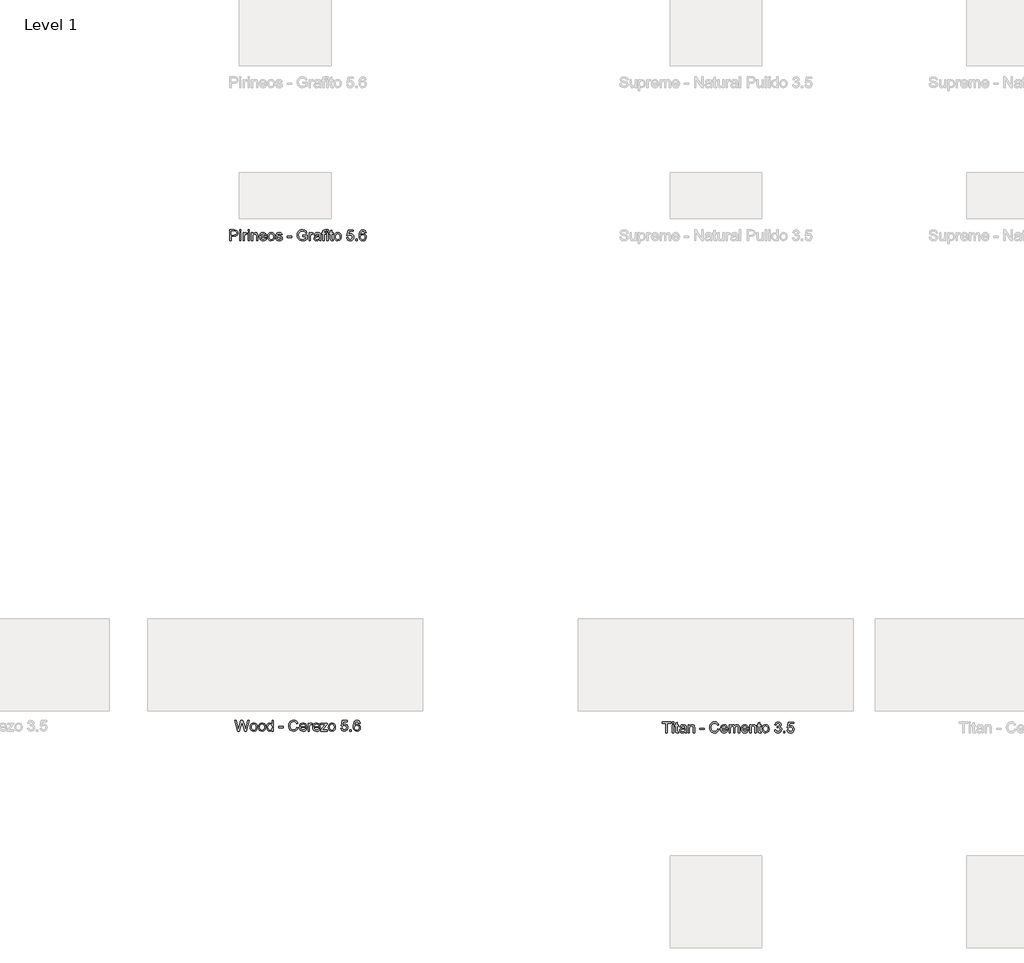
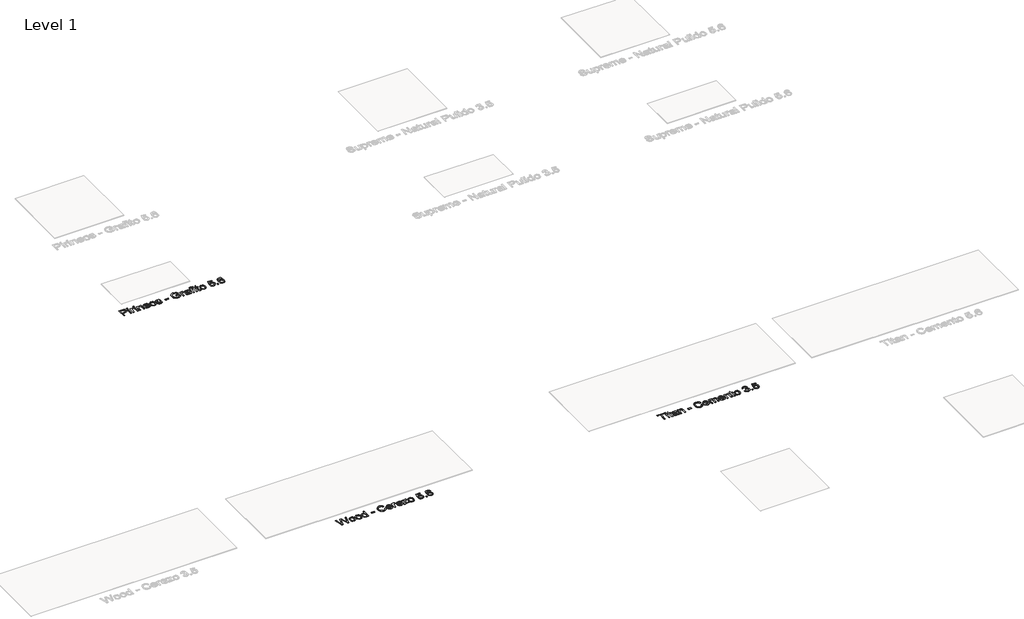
# One storey, part 34 of 80: 3 proxies.
"""IFC4 building model written with IfcOpenShell, lengths in millimetres."""

from ifc_helpers import new_model, si_unit, origin, origin_with_axes, place, context, project, spatial, polyline, outline, extrude, element, save

model = new_model("IFC4")

# Units and contexts
model_context = context("Model", 3, world=origin())
ifc_project = project(units=[si_unit("LENGTHUNIT", "METRE", prefix="MILLI")], contexts=[model_context])

# Site, building, storey
site = spatial("IfcSite", under=ifc_project)
building = spatial("IfcBuilding", under=site)
storey = spatial("IfcBuildingStorey", under=building, Name="Level 1", Elevation=0.0)

# Proxies
placement = place(None, origin())
element("IfcBuildingElementProxy", 1, Name="24\" Arial", ObjectType="24\" Arial", at=placement, inside=storey, context=model_context, shape_type="SweptSolid", body=[
    extrude(outline(polyline([(314.6835075, -7643.0201601), (282.4623536, -7524.8663139), (297.6931229, -7524.8663139), (316.3854306, -7602.5201601), (322.1546613, -7626.4913139), (328.3277383, -7605.2893908), (351.7508152, -7524.8663139), (373.7027383, -7524.8663139), (390.721969, -7583.1643908), (403.3854306, -7626.4913139), (408.9815844, -7603.2124678), (427.846969, -7524.8663139), (443.0777383, -7524.8663139), (410.8277383, -7643.0201601), (395.0488921, -7643.0201601), (366.721969, -7551.8663139), (362.7700459, -7539.1451601), (358.3277383, -7554.4624678), (332.5104306, -7643.0201601), (314.6835075, -7643.0201601)])), origin_with_axes(), (0.0, 0.0, 1.0), 2.0),
    extrude(outline(polyline([(452.3085075, -7599.6355447), (455.503219, -7578.7148716), (465.0873536, -7564.0105447), (476.9286998, -7556.8062178), (491.1065844, -7554.4047755), (506.6222094, -7557.3290543), (519.0152383, -7566.1018908), (527.1390363, -7580.0309774), (529.846969, -7598.4240062), (525.0585075, -7624.7028524), (511.1113921, -7639.5730447), (491.1065844, -7644.8663139), (475.4034594, -7641.9528524), (463.0248536, -7633.2124678), (454.987594, -7618.9913139), (452.3085075, -7599.6355447)]), holes=[polyline([(467.0777383, -7599.6066985), (468.7868729, -7612.9732851), (473.9142767, -7622.4961216), (481.6306229, -7628.1968428), (491.1065844, -7630.0970831), (500.5392767, -7628.1860255), (508.2411998, -7622.4528524), (513.3686036, -7612.8038139), (515.0777383, -7599.1451601), (513.3577863, -7586.1679966), (508.1979306, -7576.7749678), (500.4851902, -7571.0742466), (491.1065844, -7569.1740062), (481.6306229, -7571.0670351), (473.9142767, -7576.7461216), (468.7868729, -7586.2473235), (467.0777383, -7599.6066985)])]), origin_with_axes(), (0.0, 0.0, 1.0), 2.0),
    extrude(outline(polyline([(542.7700459, -7599.6355447), (545.9647575, -7578.7148716), (555.5488921, -7564.0105447), (567.3902383, -7556.8062178), (581.5681229, -7554.4047755), (597.0837479, -7557.3290543), (609.4767767, -7566.1018908), (617.6005748, -7580.0309774), (620.3085075, -7598.4240062), (615.5200459, -7624.7028524), (601.5729306, -7639.5730447), (581.5681229, -7644.8663139), (565.8649979, -7641.9528524), (553.4863921, -7633.2124678), (545.4491325, -7618.9913139), (542.7700459, -7599.6355447)]), holes=[polyline([(557.5392767, -7599.6066985), (559.2484113, -7612.9732851), (564.3758152, -7622.4961216), (572.0921613, -7628.1968428), (581.5681229, -7630.0970831), (591.0008152, -7628.1860255), (598.7027383, -7622.4528524), (603.8301421, -7612.8038139), (605.5392767, -7599.1451601), (603.8193248, -7586.1679966), (598.659469, -7576.7749678), (590.9467286, -7571.0742466), (581.5681229, -7569.1740062), (572.0921613, -7571.0670351), (564.3758152, -7576.7461216), (559.2484113, -7586.2473235), (557.5392767, -7599.6066985)])]), origin_with_axes(), (0.0, 0.0, 1.0), 2.0),
    extrude(outline(polyline([(690.4623536, -7643.0201601), (690.4623536, -7629.0874678), (680.690719, -7640.9216024), (667.1835075, -7644.8663139), (648.8950459, -7639.1547755), (635.971969, -7623.2172755), (631.3854306, -7599.7220831), (635.6113921, -7576.2124678), (640.8902383, -7566.8879485), (648.2748536, -7560.0297755), (667.1258152, -7554.4047755), (680.7411998, -7558.4288139), (690.4623536, -7568.8855447), (690.4623536, -7524.8663139), (705.2315844, -7524.8663139), (705.2315844, -7643.0201601), (690.4623536, -7643.0201601)]), holes=[polyline([(646.1546613, -7599.6643908), (647.8205267, -7613.0237658), (652.8181229, -7622.5249678), (660.0801421, -7628.2040543), (668.5392767, -7630.0970831), (676.9948056, -7628.2905928), (684.0729306, -7622.8711216), (688.8649979, -7613.7377081), (690.4623536, -7600.7893908), (688.8361517, -7586.6331408), (683.9575459, -7576.818237), (676.6991325, -7571.0850639), (667.9335075, -7569.1740062), (659.3878344, -7571.0093428), (652.3854306, -7576.5153524), (647.7123536, -7585.9732851), (646.1546613, -7599.6643908)])]), origin_with_axes(), (0.0, 0.0, 1.0), 2.0),
    extrude(outline(polyline([(766.1546613, -7607.943237), (766.1546613, -7593.1740062), (812.3085075, -7593.1740062), (812.3085075, -7607.943237), (766.1546613, -7607.943237)])), origin_with_axes(), (0.0, 0.0, 1.0), 2.0),
    extrude(outline(polyline([(960.0008152, -7601.0201601), (974.7700459, -7604.8278524), (967.9551421, -7622.0381889), (957.2604306, -7634.6115062), (943.2123536, -7642.302612), (926.3373536, -7644.8663139), (909.206344, -7642.9264101), (895.6017767, -7637.1066985), (885.1738921, -7627.6091024), (877.5729306, -7614.6355447), (872.9323056, -7599.3831408), (871.3854306, -7583.0490062), (873.1342286, -7565.8206408), (878.3806229, -7550.943237), (886.8505748, -7538.8891505), (898.2700459, -7530.130737), (911.8133152, -7524.7978043), (926.6546613, -7523.0201601), (942.8481709, -7525.3206408), (956.2363921, -7532.2220831), (966.4010556, -7543.2990062), (972.9238921, -7558.1259293), (958.1546613, -7561.6451601), (953.034469, -7550.8747274), (946.0392767, -7543.4865062), (937.0825459, -7539.2136697), (926.0777383, -7537.7893908), (913.3926421, -7539.3687178), (902.971969, -7544.1066985), (895.0645171, -7551.505737), (889.9190844, -7561.068237), (886.1546613, -7583.0201601), (890.6113921, -7608.4624678), (896.3085075, -7617.9636697), (904.4863921, -7624.7172755), (924.8661998, -7630.0970831), (937.1943248, -7628.2653524), (947.4671613, -7622.7701601), (955.2231709, -7613.6691985), (960.0008152, -7601.0201601)])), origin_with_axes(), (0.0, 0.0, 1.0), 2.0),
    extrude(outline(polyline([(1053.9815844, -7617.1740062), (1068.4623536, -7619.0201601), (1063.2448056, -7629.9312178), (1054.9190844, -7638.0874678), (1043.6726902, -7643.1716024), (1029.6931229, -7644.8663139), (1012.3637959, -7641.9420351), (999.0296613, -7633.1691985), (990.5272575, -7619.1175158), (987.6931229, -7600.3566985), (990.5561036, -7580.9648716), (999.1450459, -7566.4624678), (1012.2988921, -7557.4191985), (1028.8565844, -7554.4047755), (1044.8986517, -7557.411987), (1057.7171613, -7566.4336216), (1066.1222094, -7580.9071793), (1068.9238921, -7600.2701601), (1068.8373536, -7604.2509293), (1002.4623536, -7604.2509293), (1005.018844, -7615.3062178), (1010.9575459, -7623.4336216), (1019.5284594, -7628.4312178), (1029.9815844, -7630.0970831), (1044.4623536, -7627.0105447), (1053.9815844, -7617.1740062)]), holes=[polyline([(1002.4623536, -7589.4816985), (1054.1546613, -7589.4816985), (1048.2411998, -7576.0970831), (1039.6306229, -7570.9047755), (1028.7988921, -7569.1740062), (1010.6113921, -7574.6980447), (1004.8890363, -7581.1559774), (1002.4623536, -7589.4816985)])]), origin_with_axes(), (0.0, 0.0, 1.0), 2.0),
    extrude(outline(polyline([(1083.6931229, -7643.0201601), (1083.6931229, -7556.2509293), (1096.6161998, -7556.2509293), (1096.6161998, -7569.0874678), (1105.7892767, -7557.2605447), (1115.0200459, -7554.4047755), (1129.846969, -7558.9624678), (1124.9142767, -7572.2028524), (1114.5296613, -7569.1740062), (1106.1786998, -7572.0874678), (1100.8565844, -7580.1643908), (1098.4623536, -7597.4143908), (1098.4623536, -7643.0201601), (1083.6931229, -7643.0201601)])), origin_with_axes(), (0.0, 0.0, 1.0), 2.0),
    extrude(outline(polyline([(1199.8277383, -7617.1740062), (1214.3085075, -7619.0201601), (1209.0909594, -7629.9312178), (1200.7652383, -7638.0874678), (1189.518844, -7643.1716024), (1175.5392767, -7644.8663139), (1158.2099498, -7641.9420351), (1144.8758152, -7633.1691985), (1136.3734113, -7619.1175158), (1133.5392767, -7600.3566985), (1136.4022575, -7580.9648716), (1144.9911998, -7566.4624678), (1158.1450459, -7557.4191985), (1174.7027383, -7554.4047755), (1190.7448056, -7557.411987), (1203.5633152, -7566.4336216), (1211.9683633, -7580.9071793), (1214.7700459, -7600.2701601), (1214.6835075, -7604.2509293), (1148.3085075, -7604.2509293), (1150.8649979, -7615.3062178), (1156.8036998, -7623.4336216), (1165.3746133, -7628.4312178), (1175.8277383, -7630.0970831), (1190.3085075, -7627.0105447), (1199.8277383, -7617.1740062)]), holes=[polyline([(1148.3085075, -7589.4816985), (1200.0008152, -7589.4816985), (1194.0873536, -7576.0970831), (1185.4767767, -7570.9047755), (1174.6450459, -7569.1740062), (1156.4575459, -7574.6980447), (1150.7351902, -7581.1559774), (1148.3085075, -7589.4816985)])]), origin_with_axes(), (0.0, 0.0, 1.0), 2.0),
    extrude(outline(polyline([(1220.3085075, -7643.0201601), (1220.3085075, -7629.1163139), (1271.2796613, -7571.0201601), (1256.1931229, -7571.0201601), (1224.0008152, -7571.0201601), (1224.0008152, -7556.2509293), (1292.3085075, -7556.2509293), (1292.3085075, -7568.7990062), (1247.1065844, -7620.3470831), (1240.1835075, -7628.2509293), (1257.2604306, -7628.2509293), (1294.1546613, -7628.2509293), (1294.1546613, -7643.0201601), (1220.3085075, -7643.0201601)])), origin_with_axes(), (0.0, 0.0, 1.0), 2.0),
    extrude(outline(polyline([(1305.2315844, -7599.6355447), (1308.4262959, -7578.7148716), (1318.0104306, -7564.0105447), (1329.8517767, -7556.8062178), (1344.0296613, -7554.4047755), (1359.5452863, -7557.3290543), (1371.9383152, -7566.1018908), (1380.0621133, -7580.0309774), (1382.7700459, -7598.4240062), (1377.9815844, -7624.7028524), (1364.034469, -7639.5730447), (1344.0296613, -7644.8663139), (1328.3265363, -7641.9528524), (1315.9479306, -7633.2124678), (1307.9106709, -7618.9913139), (1305.2315844, -7599.6355447)]), holes=[polyline([(1320.0008152, -7599.6066985), (1321.7099498, -7612.9732851), (1326.8373536, -7622.4961216), (1334.5536998, -7628.1968428), (1344.0296613, -7630.0970831), (1353.4623536, -7628.1860255), (1361.1642767, -7622.4528524), (1366.2916806, -7612.8038139), (1368.0008152, -7599.1451601), (1366.2808633, -7586.1679966), (1361.1210075, -7576.7749678), (1353.4082671, -7571.0742466), (1344.0296613, -7569.1740062), (1334.5536998, -7571.0670351), (1326.8373536, -7576.7461216), (1321.7099498, -7586.2473235), (1320.0008152, -7599.6066985)])]), origin_with_axes(), (0.0, 0.0, 1.0), 2.0),
    extrude(outline(polyline([(1441.846969, -7611.6355447), (1456.6161998, -7609.7893908), (1464.0585075, -7625.005737), (1479.4911998, -7630.0970831), (1490.0777383, -7628.3266505), (1498.0104306, -7623.0153524), (1502.9647575, -7614.7761697), (1504.6161998, -7604.2220831), (1503.0693248, -7594.2845831), (1498.4286998, -7586.6836216), (1490.6582671, -7581.8591024), (1479.721969, -7580.2509293), (1466.7556229, -7582.818237), (1458.4623536, -7589.4816985), (1443.6931229, -7587.6355447), (1456.6161998, -7526.7124678), (1513.846969, -7526.7124678), (1513.846969, -7541.4816985), (1468.5585075, -7541.4816985), (1462.2411998, -7574.0201601), (1472.7916806, -7567.6163139), (1483.846969, -7565.4816985), (1497.6462479, -7568.1283331), (1509.1017767, -7576.068237), (1516.8145171, -7588.1691985), (1519.3854306, -7603.2990062), (1517.0705267, -7618.068237), (1510.1258152, -7630.7028524), (1496.8277383, -7641.3254485), (1479.4335075, -7644.8663139), (1464.9274979, -7642.5910735), (1453.3710075, -7635.7653524), (1445.4491325, -7625.1824197), (1441.846969, -7611.6355447)])), origin_with_axes(), (0.0, 0.0, 1.0), 2.0),
    extrude(outline(polyline([(1539.6931229, -7643.0201601), (1539.6931229, -7628.2509293), (1554.4623536, -7628.2509293), (1554.4623536, -7643.0201601), (1539.6931229, -7643.0201601)])), origin_with_axes(), (0.0, 0.0, 1.0), 2.0),
    extrude(outline(polyline([(1654.1546613, -7556.2509293), (1639.3854306, -7558.0970831), (1633.7892767, -7545.7797755), (1627.0897575, -7541.1716024), (1618.9911998, -7539.6355447), (1605.6642767, -7543.2124678), (1595.5825459, -7556.6403524), (1591.3854306, -7582.9624678), (1604.409469, -7571.1788139), (1620.5488921, -7567.3278524), (1634.1931229, -7569.9600639), (1645.6450459, -7577.8566985), (1653.4118729, -7589.9216024), (1656.0008152, -7605.0586216), (1651.1258152, -7625.4384293), (1637.7123536, -7639.8615062), (1618.3565844, -7644.8663139), (1601.6005748, -7641.5490062), (1588.2556229, -7631.5970831), (1579.5260556, -7614.0297755), (1576.6161998, -7587.8663139), (1579.846969, -7558.4504485), (1589.5392767, -7538.3374678), (1602.7724498, -7528.2341024), (1619.9142767, -7524.8663139), (1632.8734113, -7526.9504485), (1643.2508152, -7533.2028524), (1650.5200459, -7543.1331408), (1654.1546613, -7556.2509293)]), holes=[polyline([(1591.3854306, -7604.8278524), (1594.8036998, -7617.6211216), (1603.8902383, -7626.9095831), (1617.2027383, -7630.0970831), (1626.9491325, -7628.4456408), (1634.6113921, -7623.4913139), (1639.5765363, -7615.7028524), (1641.2315844, -7605.5490062), (1639.5981709, -7595.802612), (1634.6979306, -7588.3711216), (1626.9058633, -7583.6655928), (1616.596969, -7582.0970831), (1606.8649979, -7583.6655928), (1598.7267767, -7588.3711216), (1593.2207671, -7595.6223235), (1591.3854306, -7604.8278524)])]), origin_with_axes(), (0.0, 0.0, 1.0), 2.0),
])
element("IfcBuildingElementProxy", 2, Name="24\" Arial", ObjectType="24\" Arial", at=placement, inside=storey, context=model_context, shape_type="SweptSolid", body=[
    extrude(outline(polyline([(229.846969, -2287.8052427), (229.846969, -2169.6513966), (273.6354306, -2169.6513966), (291.2892767, -2170.7763966), (305.6402383, -2176.300435), (314.9431229, -2187.723512), (318.4623536, -2203.8340889), (316.0861517, -2217.7595697), (308.9575459, -2229.362935), (295.6270171, -2237.1946658), (274.6450459, -2239.8052427), (244.6161998, -2239.8052427), (244.6161998, -2287.8052427), (229.846969, -2287.8052427)]), holes=[polyline([(244.6161998, -2225.036012), (275.5104306, -2225.036012), (288.6065844, -2223.6802427), (297.2604306, -2219.612935), (302.0849498, -2213.0864927), (303.6931229, -2204.3533197), (299.8998536, -2192.1225504), (289.9335075, -2185.4302427), (275.1642767, -2184.4206273), (244.6161998, -2184.4206273), (244.6161998, -2225.036012)])]), origin_with_axes(), (0.0, 0.0, 1.0), 2.0),
    extrude(outline(polyline([(336.9238921, -2287.8052427), (336.9238921, -2201.036012), (351.6931229, -2201.036012), (351.6931229, -2287.8052427), (336.9238921, -2287.8052427)])), origin_with_axes(), (0.0, 0.0, 1.0), 2.0),
    extrude(outline(polyline([(336.9238921, -2184.4206273), (336.9238921, -2169.6513966), (351.6931229, -2169.6513966), (351.6931229, -2184.4206273), (336.9238921, -2184.4206273)])), origin_with_axes(), (0.0, 0.0, 1.0), 2.0),
    extrude(outline(polyline([(373.846969, -2287.8052427), (373.846969, -2201.036012), (386.7700459, -2201.036012), (386.7700459, -2213.8725504), (395.9431229, -2202.0456273), (405.1738921, -2199.1898581), (420.0008152, -2203.7475504), (415.0681229, -2216.987935), (404.6835075, -2213.9590889), (396.3325459, -2216.8725504), (391.0104306, -2224.9494735), (388.6161998, -2242.1994735), (388.6161998, -2287.8052427), (373.846969, -2287.8052427)])), origin_with_axes(), (0.0, 0.0, 1.0), 2.0),
    extrude(outline(polyline([(429.2315844, -2287.8052427), (429.2315844, -2201.036012), (444.0008152, -2201.036012), (444.0008152, -2287.8052427), (429.2315844, -2287.8052427)])), origin_with_axes(), (0.0, 0.0, 1.0), 2.0),
    extrude(outline(polyline([(429.2315844, -2184.4206273), (429.2315844, -2169.6513966), (444.0008152, -2169.6513966), (444.0008152, -2184.4206273), (429.2315844, -2184.4206273)])), origin_with_axes(), (0.0, 0.0, 1.0), 2.0),
    extrude(outline(polyline([(466.1546613, -2287.8052427), (466.1546613, -2201.036012), (480.9238921, -2201.036012), (480.9238921, -2213.1513966), (492.2171613, -2202.6802427), (507.6354306, -2199.1898581), (521.5825459, -2202.0023581), (531.1017767, -2209.3869735), (535.5296613, -2220.2475504), (536.3085075, -2234.5263966), (536.3085075, -2287.8052427), (521.5392767, -2287.8052427), (521.5392767, -2236.5167812), (519.8373536, -2223.4494735), (513.8229306, -2216.5408197), (503.6835075, -2213.9590889), (487.659469, -2219.7571658), (482.6077863, -2228.1586081), (480.9238921, -2241.7667812), (480.9238921, -2287.8052427), (466.1546613, -2287.8052427)])), origin_with_axes(), (0.0, 0.0, 1.0), 2.0),
    extrude(outline(polyline([(617.3661998, -2261.9590889), (631.846969, -2263.8052427), (626.6294209, -2274.7163004), (618.3036998, -2282.8725504), (607.0573056, -2287.956685), (593.0777383, -2289.6513966), (575.7484113, -2286.7271177), (562.4142767, -2277.9542812), (553.9118729, -2263.9025985), (551.0777383, -2245.1417812), (553.940719, -2225.7499543), (562.5296613, -2211.2475504), (575.6835075, -2202.2042812), (592.2411998, -2199.1898581), (608.2832671, -2202.1970697), (621.1017767, -2211.2187043), (629.5068248, -2225.692262), (632.3085075, -2245.0552427), (632.221969, -2249.036012), (565.846969, -2249.036012), (568.4034594, -2260.0913004), (574.3421613, -2268.2187043), (582.9130748, -2273.2163004), (593.3661998, -2274.8821658), (607.846969, -2271.7956273), (617.3661998, -2261.9590889)]), holes=[polyline([(565.846969, -2234.2667812), (617.5392767, -2234.2667812), (611.6258152, -2220.8821658), (603.0152383, -2215.6898581), (592.1835075, -2213.9590889), (573.9960075, -2219.4831273), (568.2736517, -2225.94106), (565.846969, -2234.2667812)])]), origin_with_axes(), (0.0, 0.0, 1.0), 2.0),
    extrude(outline(polyline([(643.3854306, -2244.4206273), (646.5801421, -2223.4999543), (656.1642767, -2208.7956273), (668.0056229, -2201.5913004), (682.1835075, -2199.1898581), (697.6991325, -2202.114137), (710.0921613, -2210.8869735), (718.2159594, -2224.81606), (720.9238921, -2243.2090889), (716.1354306, -2269.487935), (702.1883152, -2284.3581273), (682.1835075, -2289.6513966), (666.4803825, -2286.737935), (654.1017767, -2277.9975504), (646.0645171, -2263.7763966), (643.3854306, -2244.4206273)]), holes=[polyline([(658.1546613, -2244.3917812), (659.8637959, -2257.7583677), (664.9911998, -2267.2812043), (672.7075459, -2272.9819254), (682.1835075, -2274.8821658), (691.6161998, -2272.9711081), (699.3181229, -2267.237935), (704.4455267, -2257.5888966), (706.1546613, -2243.9302427), (704.4347094, -2230.9530793), (699.2748536, -2221.5600504), (691.5621133, -2215.8593293), (682.1835075, -2213.9590889), (672.7075459, -2215.8521177), (664.9911998, -2221.5312043), (659.8637959, -2231.0324062), (658.1546613, -2244.3917812)])]), origin_with_axes(), (0.0, 0.0, 1.0), 2.0),
    extrude(outline(polyline([(732.0008152, -2261.9590889), (746.7700459, -2260.112935), (753.6065844, -2271.0744735), (769.2700459, -2274.8821658), (784.3277383, -2271.3917812), (789.2315844, -2263.1994735), (784.2988921, -2256.5648581), (769.096969, -2252.3533197), (746.8565844, -2245.1273581), (737.1498536, -2236.6898581), (733.846969, -2224.7763966), (736.5008152, -2213.7715889), (743.7411998, -2205.362935), (753.1306229, -2200.9927427), (765.8373536, -2199.1898581), (783.8085075, -2202.0888966), (795.2315844, -2209.9350504), (800.3085075, -2223.1898581), (785.5392767, -2225.036012), (779.9863921, -2216.8869735), (766.9911998, -2213.9590889), (752.8565844, -2216.7571658), (748.6161998, -2223.2763966), (750.3758152, -2227.5744735), (755.8854306, -2230.8340889), (768.6065844, -2233.9783197), (790.284469, -2240.9302427), (800.3517767, -2248.8052427), (804.0008152, -2261.6417812), (799.7171613, -2275.7763966), (787.3565844, -2286.0312043), (769.0681229, -2289.6513966), (754.1762959, -2287.9062043), (743.3085075, -2282.6706273), (736.0536998, -2274.0023581), (732.0008152, -2261.9590889)])), origin_with_axes(), (0.0, 0.0, 1.0), 2.0),
    extrude(outline(polyline([(859.3854306, -2252.7283197), (859.3854306, -2237.9590889), (905.5392767, -2237.9590889), (905.5392767, -2252.7283197), (859.3854306, -2252.7283197)])), origin_with_axes(), (0.0, 0.0, 1.0), 2.0),
    extrude(outline(polyline([(1025.5392767, -2241.6513966), (1025.5392767, -2226.8821658), (1073.5392767, -2226.8821658), (1073.5392767, -2271.0456273), (1049.8421613, -2284.9783197), (1024.7892767, -2289.6513966), (1008.2207671, -2287.7944254), (993.2460075, -2282.223512), (980.8061036, -2273.1333677), (971.8421613, -2260.7187043), (966.4226902, -2245.8268773), (964.6161998, -2229.3052427), (966.4154786, -2212.6646177), (971.8133152, -2197.1850504), (980.5861517, -2184.2006754), (992.5104306, -2175.0456273), (1007.034469, -2169.6153389), (1023.6065844, -2167.8052427), (1046.7123536, -2172.0023581), (1062.909469, -2183.6850504), (1071.8373536, -2203.2283197), (1058.221969, -2207.0648581), (1051.4863921, -2193.4062043), (1039.9767767, -2185.5312043), (1023.3758152, -2182.5744735), (1004.4671613, -2185.7619735), (991.6017767, -2194.1273581), (984.0008152, -2205.5071658), (979.3854306, -2228.6994735), (980.7736517, -2242.8232716), (984.9383152, -2254.4446658), (991.753219, -2263.4807235), (1001.0921613, -2269.848512), (1023.6065844, -2274.8821658), (1043.8133152, -2271.0888966), (1058.7700459, -2262.9975504), (1058.7700459, -2241.6513966), (1025.5392767, -2241.6513966)])), origin_with_axes(), (0.0, 0.0, 1.0), 2.0),
    extrude(outline(polyline([(1095.6931229, -2287.8052427), (1095.6931229, -2201.036012), (1108.6161998, -2201.036012), (1108.6161998, -2213.8725504), (1117.7892767, -2202.0456273), (1127.0200459, -2199.1898581), (1141.846969, -2203.7475504), (1136.9142767, -2216.987935), (1126.5296613, -2213.9590889), (1118.1786998, -2216.8725504), (1112.8565844, -2224.9494735), (1110.4623536, -2242.1994735), (1110.4623536, -2287.8052427), (1095.6931229, -2287.8052427)])), origin_with_axes(), (0.0, 0.0, 1.0), 2.0),
    extrude(outline(polyline([(1206.4623536, -2276.7283197), (1192.1402383, -2286.737935), (1176.3181229, -2289.6513966), (1163.9755748, -2287.8989927), (1154.8710075, -2282.6417812), (1149.2568248, -2274.6586081), (1147.3854306, -2264.7283197), (1150.2123536, -2253.0456273), (1157.6402383, -2244.5648581), (1167.9815844, -2239.7187043), (1180.7604306, -2237.4975504), (1206.3758152, -2232.4206273), (1206.4623536, -2229.1321658), (1202.3950459, -2218.2283197), (1186.0681229, -2213.9590889), (1171.1258152, -2216.800435), (1164.0008152, -2226.8821658), (1149.2315844, -2225.036012), (1155.6210075, -2210.612935), (1168.4863921, -2202.161012), (1187.971969, -2199.1898581), (1205.8710075, -2201.8148581), (1215.9815844, -2208.4062043), (1220.5104306, -2218.4302427), (1221.2315844, -2231.3533197), (1221.2315844, -2249.7283197), (1221.9815844, -2275.3869735), (1224.9238921, -2287.8052427), (1210.1546613, -2287.8052427), (1206.4623536, -2276.7283197)]), holes=[polyline([(1206.4623536, -2247.1898581), (1182.6354306, -2251.7187043), (1169.9286998, -2254.112935), (1164.1738921, -2258.0071658), (1162.1546613, -2263.6898581), (1166.5536998, -2271.6802427), (1179.4623536, -2274.8821658), (1194.4046613, -2271.348512), (1204.0392767, -2262.7956273), (1206.3758152, -2251.3725504), (1206.4623536, -2247.1898581)])]), origin_with_axes(), (0.0, 0.0, 1.0), 2.0),
    extrude(outline(polyline([(1245.2315844, -2287.8052427), (1245.2315844, -2215.8052427), (1232.3085075, -2215.8052427), (1232.3085075, -2201.036012), (1245.2315844, -2201.036012), (1245.2315844, -2192.2956273), (1246.7892767, -2179.9783197), (1254.346969, -2171.1802427), (1269.2315844, -2167.8052427), (1282.7027383, -2169.4206273), (1280.5392767, -2183.2667812), (1272.0296613, -2182.5744735), (1262.7267767, -2185.0263966), (1260.0008152, -2194.1706273), (1260.0008152, -2201.036012), (1276.6161998, -2201.036012), (1276.6161998, -2215.8052427), (1260.0008152, -2215.8052427), (1260.0008152, -2287.8052427), (1245.2315844, -2287.8052427)])), origin_with_axes(), (0.0, 0.0, 1.0), 2.0),
    extrude(outline(polyline([(1289.5392767, -2287.8052427), (1289.5392767, -2201.036012), (1304.3085075, -2201.036012), (1304.3085075, -2287.8052427), (1289.5392767, -2287.8052427)])), origin_with_axes(), (0.0, 0.0, 1.0), 2.0),
    extrude(outline(polyline([(1289.5392767, -2184.4206273), (1289.5392767, -2169.6513966), (1304.3085075, -2169.6513966), (1304.3085075, -2184.4206273), (1289.5392767, -2184.4206273)])), origin_with_axes(), (0.0, 0.0, 1.0), 2.0),
    extrude(outline(polyline([(1357.846969, -2275.487935), (1359.6931229, -2288.237935), (1348.6450459, -2289.6513966), (1336.2700459, -2287.1994735), (1330.096969, -2280.7667812), (1328.3085075, -2264.0071658), (1328.3085075, -2215.8052427), (1317.2315844, -2215.8052427), (1317.2315844, -2201.036012), (1328.3085075, -2201.036012), (1328.3085075, -2179.9494735), (1343.0777383, -2171.2667812), (1343.0777383, -2201.036012), (1357.846969, -2201.036012), (1357.846969, -2215.8052427), (1343.0777383, -2215.8052427), (1343.0777383, -2263.5744735), (1343.8565844, -2271.1898581), (1346.3806229, -2273.8869735), (1351.4142767, -2274.8821658), (1357.846969, -2275.487935)])), origin_with_axes(), (0.0, 0.0, 1.0), 2.0),
    extrude(outline(polyline([(1368.9238921, -2244.4206273), (1372.1186036, -2223.4999543), (1381.7027383, -2208.7956273), (1393.5440844, -2201.5913004), (1407.721969, -2199.1898581), (1423.237594, -2202.114137), (1435.6306229, -2210.8869735), (1443.7544209, -2224.81606), (1446.4623536, -2243.2090889), (1441.6738921, -2269.487935), (1427.7267767, -2284.3581273), (1407.721969, -2289.6513966), (1392.018844, -2286.737935), (1379.6402383, -2277.9975504), (1371.6029786, -2263.7763966), (1368.9238921, -2244.4206273)]), holes=[polyline([(1383.6931229, -2244.3917812), (1385.4022575, -2257.7583677), (1390.5296613, -2267.2812043), (1398.2460075, -2272.9819254), (1407.721969, -2274.8821658), (1417.1546613, -2272.9711081), (1424.8565844, -2267.237935), (1429.9839883, -2257.5888966), (1431.6931229, -2243.9302427), (1429.9731709, -2230.9530793), (1424.8133152, -2221.5600504), (1417.1005748, -2215.8593293), (1407.721969, -2213.9590889), (1398.2460075, -2215.8521177), (1390.5296613, -2221.5312043), (1385.4022575, -2231.0324062), (1383.6931229, -2244.3917812)])]), origin_with_axes(), (0.0, 0.0, 1.0), 2.0),
    extrude(outline(polyline([(1505.5392767, -2256.4206273), (1520.3085075, -2254.5744735), (1527.7508152, -2269.7908197), (1543.1835075, -2274.8821658), (1553.7700459, -2273.1117331), (1561.7027383, -2267.800435), (1566.6570652, -2259.5612523), (1568.3085075, -2249.0071658), (1566.7616325, -2239.0696658), (1562.1210075, -2231.4687043), (1554.3505748, -2226.644185), (1543.4142767, -2225.036012), (1530.4479306, -2227.6033197), (1522.1546613, -2234.2667812), (1507.3854306, -2232.4206273), (1520.3085075, -2171.4975504), (1577.5392767, -2171.4975504), (1577.5392767, -2186.2667812), (1532.2508152, -2186.2667812), (1525.9335075, -2218.8052427), (1536.4839883, -2212.4013966), (1547.5392767, -2210.2667812), (1561.3385556, -2212.9134158), (1572.7940844, -2220.8533197), (1580.5068248, -2232.9542812), (1583.0777383, -2248.0840889), (1580.7628344, -2262.8533197), (1573.8181229, -2275.487935), (1560.5200459, -2286.1105312), (1543.1258152, -2289.6513966), (1528.6198056, -2287.3761562), (1517.0633152, -2280.550435), (1509.1414402, -2269.9675023), (1505.5392767, -2256.4206273)])), origin_with_axes(), (0.0, 0.0, 1.0), 2.0),
    extrude(outline(polyline([(1603.3854306, -2287.8052427), (1603.3854306, -2273.036012), (1618.1546613, -2273.036012), (1618.1546613, -2287.8052427), (1603.3854306, -2287.8052427)])), origin_with_axes(), (0.0, 0.0, 1.0), 2.0),
    extrude(outline(polyline([(1717.846969, -2201.036012), (1703.0777383, -2202.8821658), (1697.4815844, -2190.5648581), (1690.7820652, -2185.956685), (1682.6835075, -2184.4206273), (1669.3565844, -2187.9975504), (1659.2748536, -2201.425435), (1655.0777383, -2227.7475504), (1668.1017767, -2215.9638966), (1684.2411998, -2212.112935), (1697.8854306, -2214.7451466), (1709.3373536, -2222.6417812), (1717.1041806, -2234.706685), (1719.6931229, -2249.8437043), (1714.8181229, -2270.223512), (1701.4046613, -2284.6465889), (1682.0488921, -2289.6513966), (1665.2928825, -2286.3340889), (1651.9479306, -2276.3821658), (1643.2183633, -2258.8148581), (1640.3085075, -2232.6513966), (1643.5392767, -2203.2355312), (1653.2315844, -2183.1225504), (1666.4647575, -2173.019185), (1683.6065844, -2169.6513966), (1696.565719, -2171.7355312), (1706.9431229, -2177.987935), (1714.2123536, -2187.9182235), (1717.846969, -2201.036012)]), holes=[polyline([(1655.0777383, -2249.612935), (1658.4960075, -2262.4062043), (1667.5825459, -2271.6946658), (1680.8950459, -2274.8821658), (1690.6414402, -2273.2307235), (1698.3036998, -2268.2763966), (1703.268844, -2260.487935), (1704.9238921, -2250.3340889), (1703.2904786, -2240.5876947), (1698.3902383, -2233.1562043), (1690.5981709, -2228.4506754), (1680.2892767, -2226.8821658), (1670.5573056, -2228.4506754), (1662.4190844, -2233.1562043), (1656.9130748, -2240.4074062), (1655.0777383, -2249.612935)])]), origin_with_axes(), (0.0, 0.0, 1.0), 2.0),
])
element("IfcBuildingElementProxy", 3, Name="24\" Arial", ObjectType="24\" Arial", at=placement, inside=storey, context=model_context, shape_type="SweptSolid", body=[
    extrude(outline(polyline([(4989.846969, -7661.3584739), (4989.846969, -7557.9738585), (4951.0777383, -7557.9738585), (4951.0777383, -7543.2046277), (5043.3854306, -7543.2046277), (5043.3854306, -7557.9738585), (5004.6161998, -7557.9738585), (5004.6161998, -7661.3584739), (4989.846969, -7661.3584739)])), origin_with_axes(), (0.0, 0.0, 1.0), 2.0),
    extrude(outline(polyline([(5058.1546613, -7661.3584739), (5058.1546613, -7574.5892431), (5072.9238921, -7574.5892431), (5072.9238921, -7661.3584739), (5058.1546613, -7661.3584739)])), origin_with_axes(), (0.0, 0.0, 1.0), 2.0),
    extrude(outline(polyline([(5058.1546613, -7557.9738585), (5058.1546613, -7543.2046277), (5072.9238921, -7543.2046277), (5072.9238921, -7557.9738585), (5058.1546613, -7557.9738585)])), origin_with_axes(), (0.0, 0.0, 1.0), 2.0),
    extrude(outline(polyline([(5126.4623536, -7649.0411662), (5128.3085075, -7661.7911662), (5117.2604306, -7663.2046277), (5104.8854306, -7660.7527046), (5098.7123536, -7654.3200123), (5096.9238921, -7637.560397), (5096.9238921, -7589.3584739), (5085.846969, -7589.3584739), (5085.846969, -7574.5892431), (5096.9238921, -7574.5892431), (5096.9238921, -7553.5027046), (5111.6931229, -7544.8200123), (5111.6931229, -7574.5892431), (5126.4623536, -7574.5892431), (5126.4623536, -7589.3584739), (5111.6931229, -7589.3584739), (5111.6931229, -7637.1277046), (5112.471969, -7644.7430893), (5114.9960075, -7647.4402046), (5120.0296613, -7648.435397), (5126.4623536, -7649.0411662)])), origin_with_axes(), (0.0, 0.0, 1.0), 2.0),
    extrude(outline(polyline([(5196.6161998, -7650.2815508), (5182.2940844, -7660.2911662), (5166.471969, -7663.2046277), (5154.1294209, -7661.4522239), (5145.0248536, -7656.1950123), (5139.4106709, -7648.2118393), (5137.5392767, -7638.2815508), (5140.3661998, -7626.5988585), (5147.7940844, -7618.1180893), (5158.1354306, -7613.2719354), (5170.9142767, -7611.0507816), (5196.5296613, -7605.9738585), (5196.6161998, -7602.685397), (5192.5488921, -7591.7815508), (5176.221969, -7587.51232), (5161.2796613, -7590.3536662), (5154.1546613, -7600.435397), (5139.3854306, -7598.5892431), (5145.7748536, -7584.1661662), (5158.6402383, -7575.7142431), (5178.1258152, -7572.7430893), (5196.0248536, -7575.3680893), (5206.1354306, -7581.9594354), (5210.6642767, -7591.9834739), (5211.3854306, -7604.9065508), (5211.3854306, -7623.2815508), (5212.1354306, -7648.9402046), (5215.0777383, -7661.3584739), (5200.3085075, -7661.3584739), (5196.6161998, -7650.2815508)]), holes=[polyline([(5196.6161998, -7620.7430893), (5172.7892767, -7625.2719354), (5160.0825459, -7627.6661662), (5154.3277383, -7631.560397), (5152.3085075, -7637.2430893), (5156.7075459, -7645.2334739), (5169.6161998, -7648.435397), (5184.5585075, -7644.9017431), (5194.1931229, -7636.3488585), (5196.5296613, -7624.9257816), (5196.6161998, -7620.7430893)])]), origin_with_axes(), (0.0, 0.0, 1.0), 2.0),
    extrude(outline(polyline([(5231.6931229, -7661.3584739), (5231.6931229, -7574.5892431), (5246.4623536, -7574.5892431), (5246.4623536, -7586.7046277), (5257.7556229, -7576.2334739), (5273.1738921, -7572.7430893), (5287.1210075, -7575.5555893), (5296.6402383, -7582.9402046), (5301.0681229, -7593.8007816), (5301.846969, -7608.0796277), (5301.846969, -7661.3584739), (5287.0777383, -7661.3584739), (5287.0777383, -7610.0700123), (5285.3758152, -7597.0027046), (5279.3613921, -7590.0940508), (5269.221969, -7587.51232), (5253.1979306, -7593.310397), (5248.1462479, -7601.7118393), (5246.4623536, -7615.3200123), (5246.4623536, -7661.3584739), (5231.6931229, -7661.3584739)])), origin_with_axes(), (0.0, 0.0, 1.0), 2.0),
    extrude(outline(polyline([(5360.9238921, -7626.2815508), (5360.9238921, -7611.51232), (5407.0777383, -7611.51232), (5407.0777383, -7626.2815508), (5360.9238921, -7626.2815508)])), origin_with_axes(), (0.0, 0.0, 1.0), 2.0),
    extrude(outline(polyline([(5554.7700459, -7619.3584739), (5569.5392767, -7623.1661662), (5562.7243729, -7640.3765027), (5552.0296613, -7652.94982), (5537.9815844, -7660.6409258), (5521.1065844, -7663.2046277), (5503.9755748, -7661.2647239), (5490.3710075, -7655.4450123), (5479.9431229, -7645.9474162), (5472.3421613, -7632.9738585), (5467.7015363, -7617.7214546), (5466.1546613, -7601.38732), (5467.9034594, -7584.1589546), (5473.1498536, -7569.2815508), (5481.6198056, -7557.2274643), (5493.0392767, -7548.4690508), (5506.5825459, -7543.1361181), (5521.4238921, -7541.3584739), (5537.6174017, -7543.6589546), (5551.0056229, -7550.560397), (5561.1702863, -7561.63732), (5567.6931229, -7576.4642431), (5552.9238921, -7579.9834739), (5547.8036998, -7569.2130412), (5540.8085075, -7561.82482), (5531.8517767, -7557.5519835), (5520.846969, -7556.1277046), (5508.1618729, -7557.7070316), (5497.7411998, -7562.4450123), (5489.8337479, -7569.8440508), (5484.6883152, -7579.4065508), (5480.9238921, -7601.3584739), (5485.3806229, -7626.8007816), (5491.0777383, -7636.3019835), (5499.2556229, -7643.0555893), (5519.6354306, -7648.435397), (5531.9635556, -7646.6036662), (5542.2363921, -7641.1084739), (5549.9924017, -7632.0075123), (5554.7700459, -7619.3584739)])), origin_with_axes(), (0.0, 0.0, 1.0), 2.0),
    extrude(outline(polyline([(5648.7508152, -7635.51232), (5663.2315844, -7637.3584739), (5658.0140363, -7648.2695316), (5649.6883152, -7656.4257816), (5638.4419209, -7661.5099162), (5624.4623536, -7663.2046277), (5607.1330267, -7660.2803489), (5593.7988921, -7651.5075123), (5585.2964883, -7637.4558296), (5582.4623536, -7618.6950123), (5585.3253344, -7599.3031854), (5593.9142767, -7584.8007816), (5607.0681229, -7575.7575123), (5623.6258152, -7572.7430893), (5639.6678825, -7575.7503008), (5652.4863921, -7584.7719354), (5660.8914402, -7599.2454931), (5663.6931229, -7618.6084739), (5663.6065844, -7622.5892431), (5597.2315844, -7622.5892431), (5599.7880748, -7633.6445316), (5605.7267767, -7641.7719354), (5614.2976902, -7646.7695316), (5624.7508152, -7648.435397), (5639.2315844, -7645.3488585), (5648.7508152, -7635.51232)]), holes=[polyline([(5597.2315844, -7607.8200123), (5648.9238921, -7607.8200123), (5643.0104306, -7594.435397), (5634.3998536, -7589.2430893), (5623.5681229, -7587.51232), (5605.3806229, -7593.0363585), (5599.6582671, -7599.4942912), (5597.2315844, -7607.8200123)])]), origin_with_axes(), (0.0, 0.0, 1.0), 2.0),
    extrude(outline(polyline([(5678.4623536, -7661.3584739), (5678.4623536, -7574.5892431), (5693.2315844, -7574.5892431), (5693.2315844, -7588.8680893), (5703.3854306, -7577.1709739), (5717.8373536, -7572.7430893), (5732.6354306, -7577.2575123), (5740.7700459, -7589.9065508), (5752.2940844, -7577.0339546), (5766.846969, -7572.7430893), (5777.9491325, -7574.527945), (5786.159469, -7579.8825123), (5791.2327863, -7588.951022), (5792.9238921, -7601.8777046), (5792.9238921, -7661.3584739), (5778.1546613, -7661.3584739), (5778.1546613, -7608.2238585), (5776.784469, -7595.8921277), (5771.8229306, -7589.8200123), (5763.3854306, -7587.51232), (5755.3842286, -7588.9906854), (5748.8613921, -7593.4257816), (5744.5236517, -7601.1204931), (5743.0777383, -7612.3777046), (5743.0777383, -7661.3584739), (5728.3085075, -7661.3584739), (5728.3085075, -7606.5796277), (5724.8902383, -7592.2719354), (5713.6835075, -7587.51232), (5702.7508152, -7590.685397), (5695.4815844, -7599.9738585), (5693.2315844, -7617.5988585), (5693.2315844, -7661.3584739), (5678.4623536, -7661.3584739)])), origin_with_axes(), (0.0, 0.0, 1.0), 2.0),
    extrude(outline(polyline([(5875.8277383, -7635.51232), (5890.3085075, -7637.3584739), (5885.0909594, -7648.2695316), (5876.7652383, -7656.4257816), (5865.518844, -7661.5099162), (5851.5392767, -7663.2046277), (5834.2099498, -7660.2803489), (5820.8758152, -7651.5075123), (5812.3734113, -7637.4558296), (5809.5392767, -7618.6950123), (5812.4022575, -7599.3031854), (5820.9911998, -7584.8007816), (5834.1450459, -7575.7575123), (5850.7027383, -7572.7430893), (5866.7448056, -7575.7503008), (5879.5633152, -7584.7719354), (5887.9683633, -7599.2454931), (5890.7700459, -7618.6084739), (5890.6835075, -7622.5892431), (5824.3085075, -7622.5892431), (5826.8649979, -7633.6445316), (5832.8036998, -7641.7719354), (5841.3746133, -7646.7695316), (5851.8277383, -7648.435397), (5866.3085075, -7645.3488585), (5875.8277383, -7635.51232)]), holes=[polyline([(5824.3085075, -7607.8200123), (5876.0008152, -7607.8200123), (5870.0873536, -7594.435397), (5861.4767767, -7589.2430893), (5850.6450459, -7587.51232), (5832.4575459, -7593.0363585), (5826.7351902, -7599.4942912), (5824.3085075, -7607.8200123)])]), origin_with_axes(), (0.0, 0.0, 1.0), 2.0),
    extrude(outline(polyline([(5905.5392767, -7661.3584739), (5905.5392767, -7574.5892431), (5920.3085075, -7574.5892431), (5920.3085075, -7586.7046277), (5931.6017767, -7576.2334739), (5947.0200459, -7572.7430893), (5960.9671613, -7575.5555893), (5970.4863921, -7582.9402046), (5974.9142767, -7593.8007816), (5975.6931229, -7608.0796277), (5975.6931229, -7661.3584739), (5960.9238921, -7661.3584739), (5960.9238921, -7610.0700123), (5959.221969, -7597.0027046), (5953.2075459, -7590.0940508), (5943.0681229, -7587.51232), (5927.0440844, -7593.310397), (5921.9924017, -7601.7118393), (5920.3085075, -7615.3200123), (5920.3085075, -7661.3584739), (5905.5392767, -7661.3584739)])), origin_with_axes(), (0.0, 0.0, 1.0), 2.0),
    extrude(outline(polyline([(6027.3854306, -7649.0411662), (6029.2315844, -7661.7911662), (6018.1835075, -7663.2046277), (6005.8085075, -7660.7527046), (5999.6354306, -7654.3200123), (5997.846969, -7637.560397), (5997.846969, -7589.3584739), (5986.7700459, -7589.3584739), (5986.7700459, -7574.5892431), (5997.846969, -7574.5892431), (5997.846969, -7553.5027046), (6012.6161998, -7544.8200123), (6012.6161998, -7574.5892431), (6027.3854306, -7574.5892431), (6027.3854306, -7589.3584739), (6012.6161998, -7589.3584739), (6012.6161998, -7637.1277046), (6013.3950459, -7644.7430893), (6015.9190844, -7647.4402046), (6020.9527383, -7648.435397), (6027.3854306, -7649.0411662)])), origin_with_axes(), (0.0, 0.0, 1.0), 2.0),
    extrude(outline(polyline([(6038.4623536, -7617.9738585), (6041.6570652, -7597.0531854), (6051.2411998, -7582.3488585), (6063.0825459, -7575.1445316), (6077.2604306, -7572.7430893), (6092.7760556, -7575.6673681), (6105.1690844, -7584.4402046), (6113.2928825, -7598.3692912), (6116.0008152, -7616.76232), (6111.2123536, -7643.0411662), (6097.2652383, -7657.9113585), (6077.2604306, -7663.2046277), (6061.5573056, -7660.2911662), (6049.1786998, -7651.5507816), (6041.1414402, -7637.3296277), (6038.4623536, -7617.9738585)]), holes=[polyline([(6053.2315844, -7617.9450123), (6054.940719, -7631.3115989), (6060.0681229, -7640.8344354), (6067.784469, -7646.5351566), (6077.2604306, -7648.435397), (6086.6931229, -7646.5243393), (6094.3950459, -7640.7911662), (6099.5224498, -7631.1421277), (6101.2315844, -7617.4834739), (6099.5116325, -7604.5063104), (6094.3517767, -7595.1132816), (6086.6390363, -7589.4125604), (6077.2604306, -7587.51232), (6067.784469, -7589.4053489), (6060.0681229, -7595.0844354), (6054.940719, -7604.5856373), (6053.2315844, -7617.9450123)])]), origin_with_axes(), (0.0, 0.0, 1.0), 2.0),
    extrude(outline(polyline([(6175.0777383, -7629.9738585), (6189.846969, -7628.1277046), (6197.9960075, -7643.6757816), (6213.2411998, -7648.435397), (6223.3661998, -7646.7983777), (6231.1835075, -7641.88732), (6236.1811036, -7634.560397), (6237.846969, -7625.6757816), (6236.1955267, -7617.2418873), (6231.2411998, -7610.4017431), (6223.7411998, -7605.8692912), (6214.4527383, -7604.3584739), (6204.096969, -7605.9738585), (6205.7411998, -7591.2046277), (6208.1065844, -7591.3777046), (6224.8661998, -7587.13732), (6230.4479306, -7581.7575123), (6232.3085075, -7574.0988585), (6226.9142767, -7562.5459739), (6213.0104306, -7557.9738585), (6198.9335075, -7562.5892431), (6191.6931229, -7576.435397), (6176.9238921, -7574.5892431), (6181.2724498, -7561.3272239), (6189.0104306, -7551.4257816), (6199.596969, -7545.2599162), (6212.4911998, -7543.2046277), (6230.3036998, -7547.2575123), (6242.7652383, -7558.3344354), (6247.0777383, -7573.2334739), (6242.9815844, -7586.8488585), (6230.8661998, -7596.6277046), (6240.1113921, -7600.3632816), (6246.9623536, -7606.7238585), (6251.2027383, -7615.3632816), (6252.6161998, -7625.935397), (6249.7892767, -7640.3296277), (6241.3085075, -7652.3584739), (6228.5080267, -7660.4930893), (6212.721969, -7663.2046277), (6198.4431229, -7660.8897239), (6186.8181229, -7653.9450123), (6178.7339883, -7643.3224162), (6175.0777383, -7629.9738585)])), origin_with_axes(), (0.0, 0.0, 1.0), 2.0),
    extrude(outline(polyline([(6272.9238921, -7661.3584739), (6272.9238921, -7646.5892431), (6287.6931229, -7646.5892431), (6287.6931229, -7661.3584739), (6272.9238921, -7661.3584739)])), origin_with_axes(), (0.0, 0.0, 1.0), 2.0),
    extrude(outline(polyline([(6311.6931229, -7629.9738585), (6326.4623536, -7628.1277046), (6333.9046613, -7643.3440508), (6349.3373536, -7648.435397), (6359.9238921, -7646.6649643), (6367.8565844, -7641.3536662), (6372.8109113, -7633.1144835), (6374.4623536, -7622.560397), (6372.9154786, -7612.622897), (6368.2748536, -7605.0219354), (6360.5044209, -7600.1974162), (6349.5681229, -7598.5892431), (6336.6017767, -7601.1565508), (6328.3085075, -7607.8200123), (6313.5392767, -7605.9738585), (6326.4623536, -7545.0507816), (6383.6931229, -7545.0507816), (6383.6931229, -7559.8200123), (6338.4046613, -7559.8200123), (6332.0873536, -7592.3584739), (6342.6378344, -7585.9546277), (6353.6931229, -7583.8200123), (6367.4924017, -7586.466647), (6378.9479306, -7594.4065508), (6386.6606709, -7606.5075123), (6389.2315844, -7621.63732), (6386.9166806, -7636.4065508), (6379.971969, -7649.0411662), (6366.6738921, -7659.6637623), (6349.2796613, -7663.2046277), (6334.7736517, -7660.9293873), (6323.2171613, -7654.1036662), (6315.2952863, -7643.5207335), (6311.6931229, -7629.9738585)])), origin_with_axes(), (0.0, 0.0, 1.0), 2.0),
])

save(model, "model.ifc")
